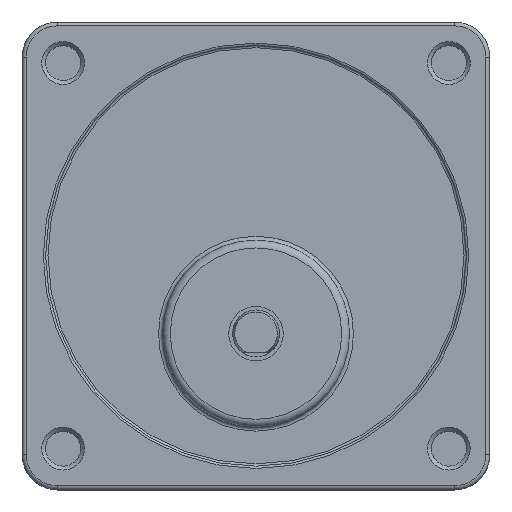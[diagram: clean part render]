
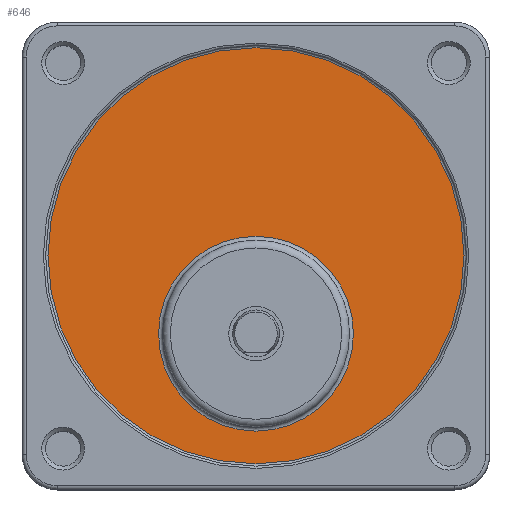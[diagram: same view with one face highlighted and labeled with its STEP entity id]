
A CAD part, top view. The second image highlights one B-rep face of the part: STEP entity #646.
In plain terms, the highlighted planar face has unit normal (0, 0, 1).
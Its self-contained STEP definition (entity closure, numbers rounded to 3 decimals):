
#595=CARTESIAN_POINT('',(42.5,20.0,34.2));
#596=VERTEX_POINT('',#595);
#597=CARTESIAN_POINT('',(30.,20.0,34.2));
#598=DIRECTION('',(0.0,0.0,1.0));
#599=DIRECTION('',(-1.0,0.0,0.0));
#600=AXIS2_PLACEMENT_3D('',#597,#598,#599);
#601=CIRCLE('',#600,12.5);
#602=EDGE_CURVE('',#596,#596,#601,.T.);
#627=CARTESIAN_POINT('',(30.,30.0,34.2));
#628=DIRECTION('',(0.0,0.0,-1.0));
#629=DIRECTION('',(-1.0,0.0,0.0));
#630=AXIS2_PLACEMENT_3D('',#627,#628,#629);
#631=PLANE('',#630);
#632=CARTESIAN_POINT('',(56.699,30.,34.2));
#633=VERTEX_POINT('',#632);
#634=CARTESIAN_POINT('',(30.,30.0,34.2));
#635=DIRECTION('',(0.0,0.0,-1.0));
#636=DIRECTION('',(-1.0,0.0,0.0));
#637=AXIS2_PLACEMENT_3D('',#634,#635,#636);
#638=CIRCLE('',#637,26.699);
#639=EDGE_CURVE('',#633,#633,#638,.T.);
#640=ORIENTED_EDGE('',*,*,#639,.F.);
#641=EDGE_LOOP('',(#640));
#642=FACE_OUTER_BOUND('',#641,.T.);
#643=ORIENTED_EDGE('',*,*,#602,.F.);
#644=EDGE_LOOP('',(#643));
#645=FACE_BOUND('',#644,.T.);
#646=ADVANCED_FACE('',(#642,#645),#631,.F.);
